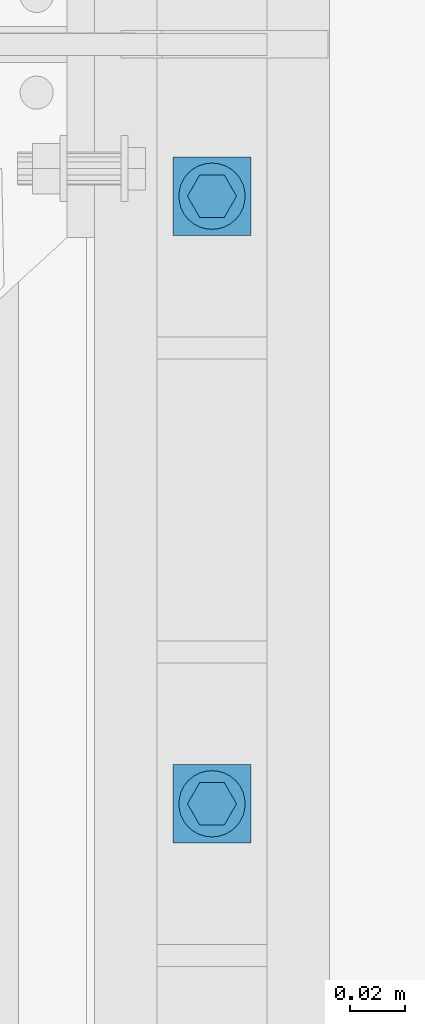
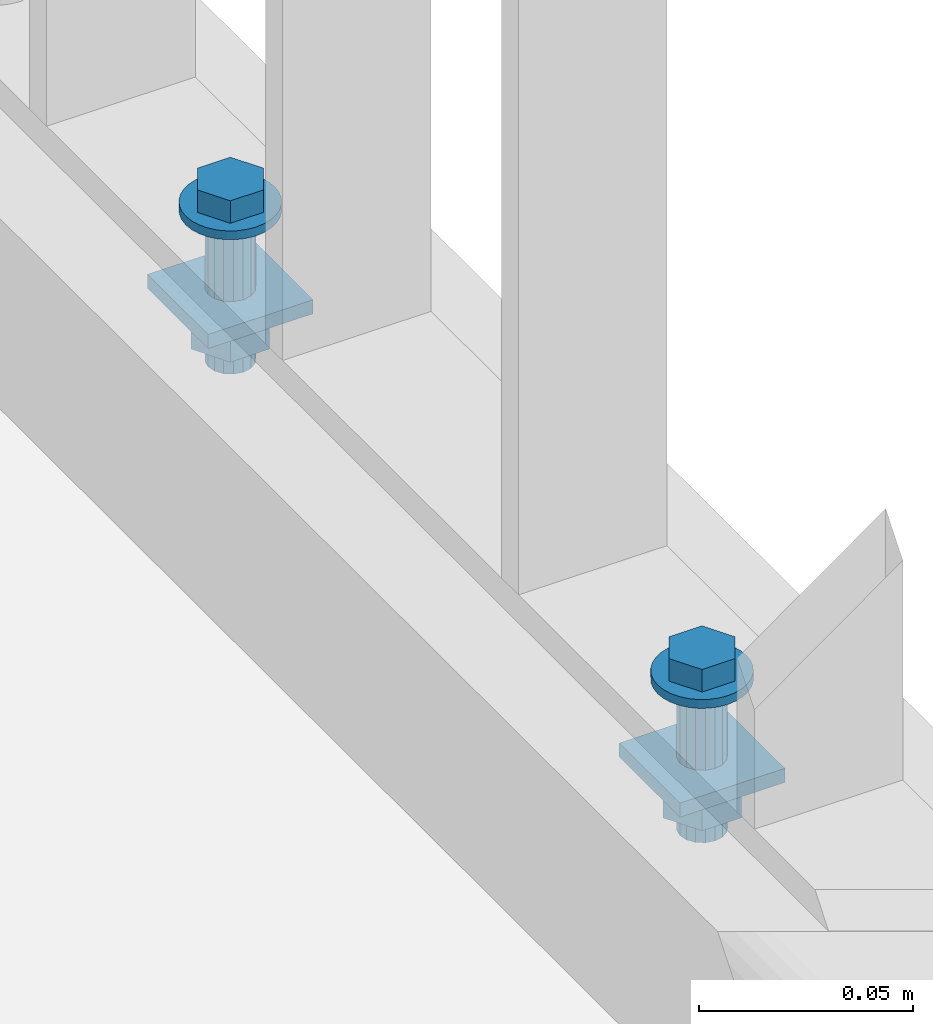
# One storey, part 111 of 145: 2 mechanical fasteners.
"""IFC2X3 building model written with IfcOpenShell, lengths in millimetres."""

import ifcopenshell
import ifcopenshell.guid

model = None  # the IFC model being written
_history = None  # IfcOwnerHistory: only IFC2X3 demands one
_inside = {}  # id of a spatial element -> (the spatial element, [elements in it])
_under = {}  # id of a project, library or spatial element -> (it, [spatial elements below it])
_declared = {}  # id of a project -> (the project, [libraries it declares])
_typed = {}  # id of a type object -> (the type object, [elements of that type])
_made_of = {}  # id of a material, layer set ... -> (it, [elements and type objects made of it])


def new_model(schema):
    """Start an empty IFC model of exactly this schema.

    Asked for "IFC4X3", IfcOpenShell would pick the latest addendum, in which some entities
    have other attributes; the version numbers below select the first issue.
    IFC2X3 requires an IfcOwnerHistory on every rooted entity: one is made here for all.
    """
    global model, _history
    if schema == "IFC4X3":
        model = ifcopenshell.file(schema_version=(4, 3, 0, 0))
    else:
        model = ifcopenshell.file(schema=schema)
    _inside.clear()
    _under.clear()
    _declared.clear()
    _typed.clear()
    _made_of.clear()
    _history = None
    if model.schema == "IFC2X3":
        org = make("IfcOrganization", Name="unknown")
        user = make(
            "IfcPersonAndOrganization",
            ThePerson=make("IfcPerson", FamilyName="unknown"),
            TheOrganization=org,
        )
        app = make(
            "IfcApplication",
            ApplicationDeveloper=org,
            Version="unknown",
            ApplicationFullName="unknown",
            ApplicationIdentifier="unknown",
        )
        _history = make(
            "IfcOwnerHistory",
            OwningUser=user,
            OwningApplication=app,
            ChangeAction="ADDED",
            CreationDate=0,
        )
    return model


def make(cls, **values):
    """One entity of the class cls with the attributes given. An attribute that is None is left unset."""
    return model.create_entity(
        cls, **{name: value for name, value in values.items() if value is not None}
    )


def entity(cls, *values):
    """Any entity or typed value of the class cls, its attributes in the order of the schema. None: left unset."""
    e = model.create_entity(cls)
    for i, value in enumerate(values):
        if value is not None:
            e[i] = value
    return e


def rooted(cls, **values):
    """An entity with a GlobalId (a new one), such as an element, a storey or a relation."""
    return make(cls, GlobalId=ifcopenshell.guid.new(), OwnerHistory=_history, **values)


def si_unit(unit_type, name, prefix=None):
    """IfcSIUnit, for example si_unit("LENGTHUNIT", "METRE", prefix="MILLI")."""
    return make("IfcSIUnit", UnitType=unit_type, Prefix=prefix, Name=name)


def converted_unit(unit_type, name, factor, base, dimensions=None, offset=None):
    """IfcConversionBasedUnit, such as the inch: factor (a typed value) times the base unit."""
    return make(
        "IfcConversionBasedUnit"
        if offset is None
        else "IfcConversionBasedUnitWithOffset",
        ConversionOffset=offset,
        Dimensions=None
        if dimensions is None
        else entity("IfcDimensionalExponents", *dimensions),
        UnitType=unit_type,
        Name=name,
        ConversionFactor=make(
            "IfcMeasureWithUnit", ValueComponent=factor, UnitComponent=base
        ),
    )


def assignment(units):
    """IfcUnitAssignment: the units of a project."""
    return None if units is None else make("IfcUnitAssignment", Units=units)


def point(xyz):
    """IfcCartesianPoint."""
    return None if xyz is None else make("IfcCartesianPoint", Coordinates=xyz)


def direction(xyz):
    """IfcDirection."""
    return None if xyz is None else make("IfcDirection", DirectionRatios=xyz)


def frame(location, z_axis=None, x_axis=None):
    """IfcAxis2Placement3D, a coordinate frame: its origin and axes. An axis left out is left unset."""
    return make(
        "IfcAxis2Placement3D",
        Location=point(location),
        Axis=direction(z_axis),
        RefDirection=direction(x_axis),
    )


def origin_with_axes():
    """The frame at (0, 0, 0) with the z axis (0, 0, 1) and the x axis (1, 0, 0) written out."""
    return frame((0.0, 0.0, 0.0), z_axis=(0.0, 0.0, 1.0), x_axis=(1.0, 0.0, 0.0))


def place(relative_to, where):
    """IfcLocalPlacement: puts the frame where relative to a parent placement (None: the world)."""
    return make(
        "IfcLocalPlacement", PlacementRelTo=relative_to, RelativePlacement=where
    )


def context(
    kind, dimensions, precision=None, world=None, true_north=None, identifier=None
):
    """IfcGeometricRepresentationContext, for example the 3D "Model" context."""
    return make(
        "IfcGeometricRepresentationContext",
        ContextIdentifier=identifier,
        ContextType=kind,
        CoordinateSpaceDimension=dimensions,
        Precision=precision,
        WorldCoordinateSystem=world,
        TrueNorth=true_north,
    )


def project(units=None, contexts=None):
    """IfcProject with its units and contexts."""
    return rooted(
        "IfcProject",
        Name="project",
        RepresentationContexts=contexts,
        UnitsInContext=assignment(units),
    )


def spatial(cls, under=None, at=None, **own):
    """A site, building, storey or space (cls), placed at a placement, below another one or the project."""
    s = rooted(cls, ObjectPlacement=at, **own)
    if under is not None:
        _under.setdefault(under.id(), (under, []))[1].append(s)
    return s


def faces_of(points, faces, orient=None, outer=None):
    """IfcFace entities. A face is a list of loops; a loop is a list of indices into points, from 0.

    orient and outer hold one flag for each loop. By default every Orientation is true, the
    first loop of a face is its IfcFaceOuterBound and the others are IfcFaceBound.
    """
    made = []
    for i, loops in enumerate(faces):
        bounds = []
        for j, loop in enumerate(loops):
            is_outer = j == 0 if outer is None else outer[i][j]
            bounds.append(
                make(
                    "IfcFaceOuterBound" if is_outer else "IfcFaceBound",
                    Bound=make("IfcPolyLoop", Polygon=[points[k] for k in loop]),
                    Orientation=True if orient is None else orient[i][j],
                )
            )
        made.append(make("IfcFace", Bounds=bounds))
    return made


def faceted_brep(points, faces, orient=None, outer=None, voids=None):
    """IfcFacetedBrep: a solid bounded by flat faces; with voids (closed shells), ...WithVoids."""
    shared = [point(p) for p in points]
    hull = make("IfcClosedShell", CfsFaces=faces_of(shared, faces, orient, outer))
    if voids is None:
        return make("IfcFacetedBrep", Outer=hull)
    return make(
        "IfcFacetedBrepWithVoids",
        Outer=hull,
        Voids=[
            make(cls, CfsFaces=faces_of(shared, fs, o, b)) for cls, fs, o, b in voids
        ],
    )


def shape(context_of_items, identifier, shape_type, items):
    """IfcShapeRepresentation: the items that make up one representation, for example the "Body"."""
    return make(
        "IfcShapeRepresentation",
        ContextOfItems=context_of_items,
        RepresentationIdentifier=identifier,
        RepresentationType=shape_type,
        Items=items,
    )


def made_of(thing, what):
    """Note that an element or type object is made of a material, layer set ...; save() writes the relation."""
    if what is not None:
        _made_of.setdefault(what.id(), (what, []))[1].append(thing)
    return thing


def element(
    cls,
    number,
    at=None,
    inside=None,
    cuts=None,
    type_object=None,
    material=None,
    context=None,
    identifier="Body",
    shape_type=None,
    held_by="IfcProductDefinitionShape",
    body=None,
    shapes=None,
    **own,
):
    """One element of the class cls, such as IfcWall. Its Tag is "e" and its number.

    at: its placement. inside: the storey or other place that contains it. cuts: it is an
    opening in that element (IfcRelVoidsElement). A single representation is given by context,
    identifier, shape_type and body (its items); several are given by shapes. held_by: the class
    of the entity that holds the representations. save() writes the other relations.
    """
    e = rooted(cls, Tag="e%d" % number, ObjectPlacement=at, **own)
    if body is not None:
        shapes = [shape(context, identifier, shape_type, body)]
    if shapes is not None:
        e.Representation = make(held_by, Representations=shapes)
    if inside is not None:
        _inside.setdefault(inside.id(), (inside, []))[1].append(e)
    if cuts is not None:
        rooted(
            "IfcRelVoidsElement", RelatingBuildingElement=cuts, RelatedOpeningElement=e
        )
    if type_object is not None:
        _typed.setdefault(type_object.id(), (type_object, []))[1].append(e)
    return made_of(e, material)


def aggregate(whole, parts):
    """IfcRelAggregates: a whole, such as a stair, and the parts it consists of."""
    return rooted("IfcRelAggregates", RelatingObject=whole, RelatedObjects=parts)


def save(model, path):
    """Write the relations noted so far, then the file.

    IfcRelAggregates (storeys below a building ...), IfcRelContainedInSpatialStructure (elements
    in a storey), IfcRelDefinesByType, IfcRelAssociatesMaterial and IfcRelDeclares: one each for
    every whole, place, type object, material and project.
    """
    for whole, parts in _under.values():
        aggregate(whole, parts)
    for where, things in _inside.values():
        rooted(
            "IfcRelContainedInSpatialStructure",
            RelatedElements=things,
            RelatingStructure=where,
        )
    for kind, things in _typed.values():
        rooted("IfcRelDefinesByType", RelatedObjects=things, RelatingType=kind)
    for what, things in _made_of.values():
        rooted("IfcRelAssociatesMaterial", RelatedObjects=things, RelatingMaterial=what)
    for by, libraries in _declared.values():
        rooted("IfcRelDeclares", RelatingContext=by, RelatedDefinitions=libraries)
    model.write(path)


model = new_model("IFC2X3")

# Units and contexts
model_context = context("Model", 3, precision=1e-09, world=origin_with_axes())
ifc_project = project(units=[si_unit("LENGTHUNIT", "METRE", prefix="MILLI"), si_unit("AREAUNIT", "SQUARE_METRE"), si_unit("VOLUMEUNIT", "CUBIC_METRE"), converted_unit("PLANEANGLEUNIT", "DEGREE", entity("IfcPlaneAngleMeasure", 0.01745329), si_unit("PLANEANGLEUNIT", "RADIAN"), dimensions=[0, 0, 0, 0, 0, 0, 0])], contexts=[model_context])

# Site, building, storey
site_placement = place(None, origin_with_axes())
site = spatial("IfcSite", under=ifc_project, at=site_placement, Name="BZ1 Grund- und Mittelschule 85716 Unterschlei?heim", CompositionType="ELEMENT")
building_placement = place(site_placement, origin_with_axes())
building = spatial("IfcBuilding", under=site, at=building_placement, Name="Struktur 1", CompositionType="ELEMENT")
storey_placement = place(building_placement, origin_with_axes())
storey = spatial("IfcBuildingStorey", under=building, at=storey_placement, Name="Default Storey", CompositionType="ELEMENT", Elevation=0.0)

# Mechanical fasteners
mechanical_fastener_1_placement = place(None, origin_with_axes())
element("IfcMechanicalFastener", 1, at=mechanical_fastener_1_placement, inside=storey, ObjectType="-", NominalDiameter=12.0, NominalLength=45.0, context=model_context, shape_type="Brep", body=[
    faceted_brep([(21613.34472732, -1738.002, 1621.636364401), (21613.34472732, -1738.002, 1624.136364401), (21615.685811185, -1738.232576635, 1624.136364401), (21615.685811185, -1738.232576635, 1621.636364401), (21617.936928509, -1738.91544561, 1624.136364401), (21617.936928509, -1738.91544561, 1621.636364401), (21620.011570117, -1740.024364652, 1624.136364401), (21620.011570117, -1740.024364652, 1621.636364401), (21621.830008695, -1741.516718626, 1624.136364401), (21621.830008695, -1741.516718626, 1621.636364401), (21623.322362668, -1743.335157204, 1624.136364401), (21623.322362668, -1743.335157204, 1621.636364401), (21624.43128171, -1745.409798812, 1624.136364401), (21624.43128171, -1745.409798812, 1621.636364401), (21625.114150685, -1747.660916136, 1624.136364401), (21625.114150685, -1747.660916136, 1621.636364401), (21625.34472732, -1750.002, 1624.136364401), (21625.34472732, -1750.002, 1621.636364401), (21625.114150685, -1752.343083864, 1624.136364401), (21625.114150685, -1752.343083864, 1621.636364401), (21624.43128171, -1754.594201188, 1624.136364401), (21624.43128171, -1754.594201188, 1621.636364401), (21623.322362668, -1756.668842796, 1624.136364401), (21623.322362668, -1756.668842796, 1621.636364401), (21621.830008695, -1758.487281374, 1624.136364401), (21621.830008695, -1758.487281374, 1621.636364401), (21620.011570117, -1759.979635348, 1624.136364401), (21620.011570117, -1759.979635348, 1621.636364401), (21617.936928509, -1761.08855439, 1624.136364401), (21617.936928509, -1761.08855439, 1621.636364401), (21615.685811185, -1761.771423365, 1624.136364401), (21615.685811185, -1761.771423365, 1621.636364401), (21613.34472732, -1762.002, 1624.136364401), (21613.34472732, -1762.002, 1621.636364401), (21611.003643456, -1761.771423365, 1624.136364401), (21611.003643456, -1761.771423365, 1621.636364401), (21608.752526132, -1761.08855439, 1624.136364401), (21608.752526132, -1761.08855439, 1621.636364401), (21606.677884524, -1759.979635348, 1624.136364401), (21606.677884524, -1759.979635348, 1621.636364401), (21604.859445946, -1758.487281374, 1624.136364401), (21604.859445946, -1758.487281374, 1621.636364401), (21603.367091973, -1756.668842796, 1624.136364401), (21603.367091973, -1756.668842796, 1621.636364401), (21602.25817293, -1754.594201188, 1624.136364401), (21602.25817293, -1754.594201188, 1621.636364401), (21601.575303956, -1752.343083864, 1624.136364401), (21601.575303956, -1752.343083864, 1621.636364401), (21601.34472732, -1750.002, 1624.136364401), (21601.34472732, -1750.002, 1621.636364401), (21601.575303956, -1747.660916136, 1624.136364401), (21601.575303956, -1747.660916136, 1621.636364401), (21602.25817293, -1745.409798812, 1624.136364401), (21602.25817293, -1745.409798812, 1621.636364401), (21603.367091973, -1743.335157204, 1624.136364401), (21603.367091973, -1743.335157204, 1621.636364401), (21604.859445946, -1741.516718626, 1624.136364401), (21604.859445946, -1741.516718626, 1621.636364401), (21606.677884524, -1740.024364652, 1624.136364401), (21606.677884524, -1740.024364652, 1621.636364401), (21608.752526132, -1738.91544561, 1624.136364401), (21608.752526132, -1738.91544561, 1621.636364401), (21611.003643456, -1738.232576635, 1624.136364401), (21611.003643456, -1738.232576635, 1621.636364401)], [[[0, 1, 2, 3]], [[3, 2, 4, 5]], [[5, 4, 6, 7]], [[7, 6, 8, 9]], [[9, 8, 10, 11]], [[11, 10, 12, 13]], [[13, 12, 14, 15]], [[15, 14, 16, 17]], [[17, 16, 18, 19]], [[19, 18, 20, 21]], [[21, 20, 22, 23]], [[23, 22, 24, 25]], [[25, 24, 26, 27]], [[27, 26, 28, 29]], [[29, 28, 30, 31]], [[31, 30, 32, 33]], [[33, 32, 34, 35]], [[35, 34, 36, 37]], [[37, 36, 38, 39]], [[39, 38, 40, 41]], [[41, 40, 42, 43]], [[43, 42, 44, 45]], [[45, 44, 46, 47]], [[47, 46, 48, 49]], [[49, 48, 50, 51]], [[51, 50, 52, 53]], [[53, 52, 54, 55]], [[55, 54, 56, 57]], [[57, 56, 58, 59]], [[59, 58, 60, 61]], [[61, 60, 62, 63]], [[63, 62, 1, 0]], [[2, 1, 62, 60, 58, 56, 54, 52, 50, 48, 46, 44, 42, 40, 38, 36, 34, 32, 30, 28, 26, 24, 22, 20, 18, 16, 14, 12, 10, 8, 6, 4]], [[63, 0, 3, 5, 7, 9, 11, 13, 15, 17, 19, 21, 23, 25, 27, 29, 31, 33, 35, 37, 39, 41, 43, 45, 47, 49, 51, 53, 55, 57, 59, 61]]]),
    faceted_brep([(21617.78722732, -1757.696635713, 1630.536364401), (21617.78722732, -1757.696635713, 1624.136364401), (21622.22972732, -1750.002, 1624.136364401), (21622.22972732, -1750.002, 1630.536364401), (21617.78722732, -1742.307364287, 1624.136364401), (21617.78722732, -1742.307364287, 1630.536364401), (21608.90222732, -1742.307364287, 1624.136364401), (21608.90222732, -1742.307364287, 1630.536364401), (21604.45972732, -1750.002, 1624.136364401), (21604.45972732, -1750.002, 1630.536364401), (21608.90222732, -1757.696635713, 1624.136364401), (21608.90222732, -1757.696635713, 1630.536364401)], [[[0, 1, 2, 3]], [[3, 2, 4, 5]], [[5, 4, 6, 7]], [[7, 6, 8, 9]], [[9, 8, 10, 11]], [[11, 10, 1, 0]], [[3, 5, 7, 9, 11, 0]], [[2, 1, 10, 8, 6, 4]]]),
    faceted_brep([(21613.34472732, -1744.002, 1599.792349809), (21613.34472732, -1744.002, 1621.636364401), (21615.640827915, -1744.458722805, 1621.636364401), (21615.640827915, -1744.458722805, 1599.792349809), (21617.587368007, -1745.759359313, 1621.636364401), (21617.587368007, -1745.759359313, 1599.792349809), (21618.888004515, -1747.705899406, 1621.636364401), (21618.888004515, -1747.705899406, 1599.792349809), (21619.34472732, -1750.002, 1621.636364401), (21619.34472732, -1750.002, 1599.792349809), (21618.888004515, -1752.298100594, 1621.636364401), (21618.888004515, -1752.298100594, 1599.792349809), (21617.587368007, -1754.244640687, 1621.636364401), (21617.587368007, -1754.244640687, 1599.792349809), (21615.640827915, -1755.545277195, 1621.636364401), (21615.640827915, -1755.545277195, 1599.792349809), (21613.34472732, -1756.002, 1621.636364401), (21613.34472732, -1756.002, 1599.792349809), (21611.048626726, -1755.545277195, 1621.636364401), (21611.048626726, -1755.545277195, 1599.792349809), (21609.102086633, -1754.244640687, 1621.636364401), (21609.102086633, -1754.244640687, 1599.792349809), (21607.801450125, -1752.298100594, 1621.636364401), (21607.801450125, -1752.298100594, 1599.792349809), (21607.34472732, -1750.002, 1621.636364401), (21607.34472732, -1750.002, 1599.792349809), (21607.801450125, -1747.705899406, 1621.636364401), (21607.801450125, -1747.705899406, 1599.792349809), (21609.102086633, -1745.759359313, 1621.636364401), (21609.102086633, -1745.759359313, 1599.792349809), (21611.048626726, -1744.458722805, 1621.636364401), (21611.048626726, -1744.458722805, 1599.792349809)], [[[0, 1, 2, 3]], [[3, 2, 4, 5]], [[5, 4, 6, 7]], [[7, 6, 8, 9]], [[9, 8, 10, 11]], [[11, 10, 12, 13]], [[13, 12, 14, 15]], [[15, 14, 16, 17]], [[17, 16, 18, 19]], [[19, 18, 20, 21]], [[21, 20, 22, 23]], [[23, 22, 24, 25]], [[25, 24, 26, 27]], [[27, 26, 28, 29]], [[29, 28, 30, 31]], [[31, 30, 1, 0]], [[2, 1, 30, 28, 26, 24, 22, 20, 18, 16, 14, 12, 10, 8, 6, 4]], [[31, 0, 3, 5, 7, 9, 11, 13, 15, 17, 19, 21, 23, 25, 27, 29]]]),
    faceted_brep([(21627.486862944, -1764.144135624, 1599.792349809), (21627.486862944, -1764.144135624, 1595.792349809), (21627.486862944, -1735.859864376, 1595.792349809), (21627.486862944, -1735.859864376, 1599.792349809), (21599.202591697, -1735.859864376, 1595.792349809), (21599.202591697, -1735.859864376, 1599.792349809), (21599.202591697, -1764.144135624, 1595.792349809), (21599.202591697, -1764.144135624, 1599.792349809)], [[[0, 1, 2, 3]], [[3, 2, 4, 5]], [[5, 4, 6, 7]], [[7, 6, 1, 0]], [[3, 5, 7, 0]], [[2, 1, 6, 4]]]),
    faceted_brep([(21618.61972732, -1759.13856801, 1595.792349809), (21618.61972732, -1759.13856801, 1585.792349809), (21623.89472732, -1750.002, 1585.792349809), (21623.89472732, -1750.002, 1595.792349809), (21618.61972732, -1740.86543199, 1585.792349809), (21618.61972732, -1740.86543199, 1595.792349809), (21608.06972732, -1740.86543199, 1585.792349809), (21608.06972732, -1740.86543199, 1595.792349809), (21602.79472732, -1750.002, 1585.792349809), (21602.79472732, -1750.002, 1595.792349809), (21608.06972732, -1759.13856801, 1585.792349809), (21608.06972732, -1759.13856801, 1595.792349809)], [[[0, 1, 2, 3]], [[3, 2, 4, 5]], [[5, 4, 6, 7]], [[7, 6, 8, 9]], [[9, 8, 10, 11]], [[11, 10, 1, 0]], [[3, 5, 7, 9, 11, 0]], [[2, 1, 10, 8, 6, 4]]]),
    faceted_brep([(21613.34472732, -1744.002, 1579.136364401), (21613.34472732, -1744.002, 1585.792349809), (21615.640827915, -1744.458722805, 1585.792349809), (21615.640827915, -1744.458722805, 1579.136364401), (21617.587368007, -1745.759359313, 1585.792349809), (21617.587368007, -1745.759359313, 1579.136364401), (21618.888004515, -1747.705899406, 1585.792349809), (21618.888004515, -1747.705899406, 1579.136364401), (21619.34472732, -1750.002, 1585.792349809), (21619.34472732, -1750.002, 1579.136364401), (21618.888004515, -1752.298100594, 1585.792349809), (21618.888004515, -1752.298100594, 1579.136364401), (21617.587368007, -1754.244640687, 1585.792349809), (21617.587368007, -1754.244640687, 1579.136364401), (21615.640827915, -1755.545277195, 1585.792349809), (21615.640827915, -1755.545277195, 1579.136364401), (21613.34472732, -1756.002, 1585.792349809), (21613.34472732, -1756.002, 1579.136364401), (21611.048626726, -1755.545277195, 1585.792349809), (21611.048626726, -1755.545277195, 1579.136364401), (21609.102086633, -1754.244640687, 1585.792349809), (21609.102086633, -1754.244640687, 1579.136364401), (21607.801450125, -1752.298100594, 1585.792349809), (21607.801450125, -1752.298100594, 1579.136364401), (21607.34472732, -1750.002, 1585.792349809), (21607.34472732, -1750.002, 1579.136364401), (21607.801450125, -1747.705899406, 1585.792349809), (21607.801450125, -1747.705899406, 1579.136364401), (21609.102086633, -1745.759359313, 1585.792349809), (21609.102086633, -1745.759359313, 1579.136364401), (21611.048626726, -1744.458722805, 1585.792349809), (21611.048626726, -1744.458722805, 1579.136364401)], [[[0, 1, 2, 3]], [[3, 2, 4, 5]], [[5, 4, 6, 7]], [[7, 6, 8, 9]], [[9, 8, 10, 11]], [[11, 10, 12, 13]], [[13, 12, 14, 15]], [[15, 14, 16, 17]], [[17, 16, 18, 19]], [[19, 18, 20, 21]], [[21, 20, 22, 23]], [[23, 22, 24, 25]], [[25, 24, 26, 27]], [[27, 26, 28, 29]], [[29, 28, 30, 31]], [[31, 30, 1, 0]], [[2, 1, 30, 28, 26, 24, 22, 20, 18, 16, 14, 12, 10, 8, 6, 4]], [[31, 0, 3, 5, 7, 9, 11, 13, 15, 17, 19, 21, 23, 25, 27, 29]]]),
])
mechanical_fastener_2_placement = place(None, origin_with_axes())
element("IfcMechanicalFastener", 2, at=mechanical_fastener_2_placement, inside=storey, ObjectType="-", NominalDiameter=12.0, NominalLength=45.0, context=model_context, shape_type="Brep", body=[
    faceted_brep([(21613.34472732, -1958.002, 1621.636364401), (21613.34472732, -1958.002, 1624.136364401), (21615.685811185, -1958.232576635, 1624.136364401), (21615.685811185, -1958.232576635, 1621.636364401), (21617.936928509, -1958.91544561, 1624.136364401), (21617.936928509, -1958.91544561, 1621.636364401), (21620.011570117, -1960.024364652, 1624.136364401), (21620.011570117, -1960.024364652, 1621.636364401), (21621.830008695, -1961.516718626, 1624.136364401), (21621.830008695, -1961.516718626, 1621.636364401), (21623.322362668, -1963.335157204, 1624.136364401), (21623.322362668, -1963.335157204, 1621.636364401), (21624.43128171, -1965.409798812, 1624.136364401), (21624.43128171, -1965.409798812, 1621.636364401), (21625.114150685, -1967.660916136, 1624.136364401), (21625.114150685, -1967.660916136, 1621.636364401), (21625.34472732, -1970.002, 1624.136364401), (21625.34472732, -1970.002, 1621.636364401), (21625.114150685, -1972.343083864, 1624.136364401), (21625.114150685, -1972.343083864, 1621.636364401), (21624.43128171, -1974.594201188, 1624.136364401), (21624.43128171, -1974.594201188, 1621.636364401), (21623.322362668, -1976.668842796, 1624.136364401), (21623.322362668, -1976.668842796, 1621.636364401), (21621.830008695, -1978.487281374, 1624.136364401), (21621.830008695, -1978.487281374, 1621.636364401), (21620.011570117, -1979.979635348, 1624.136364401), (21620.011570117, -1979.979635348, 1621.636364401), (21617.936928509, -1981.08855439, 1624.136364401), (21617.936928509, -1981.08855439, 1621.636364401), (21615.685811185, -1981.771423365, 1624.136364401), (21615.685811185, -1981.771423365, 1621.636364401), (21613.34472732, -1982.002, 1624.136364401), (21613.34472732, -1982.002, 1621.636364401), (21611.003643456, -1981.771423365, 1624.136364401), (21611.003643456, -1981.771423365, 1621.636364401), (21608.752526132, -1981.08855439, 1624.136364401), (21608.752526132, -1981.08855439, 1621.636364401), (21606.677884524, -1979.979635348, 1624.136364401), (21606.677884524, -1979.979635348, 1621.636364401), (21604.859445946, -1978.487281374, 1624.136364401), (21604.859445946, -1978.487281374, 1621.636364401), (21603.367091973, -1976.668842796, 1624.136364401), (21603.367091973, -1976.668842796, 1621.636364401), (21602.25817293, -1974.594201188, 1624.136364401), (21602.25817293, -1974.594201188, 1621.636364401), (21601.575303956, -1972.343083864, 1624.136364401), (21601.575303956, -1972.343083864, 1621.636364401), (21601.34472732, -1970.002, 1624.136364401), (21601.34472732, -1970.002, 1621.636364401), (21601.575303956, -1967.660916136, 1624.136364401), (21601.575303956, -1967.660916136, 1621.636364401), (21602.25817293, -1965.409798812, 1624.136364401), (21602.25817293, -1965.409798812, 1621.636364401), (21603.367091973, -1963.335157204, 1624.136364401), (21603.367091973, -1963.335157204, 1621.636364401), (21604.859445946, -1961.516718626, 1624.136364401), (21604.859445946, -1961.516718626, 1621.636364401), (21606.677884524, -1960.024364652, 1624.136364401), (21606.677884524, -1960.024364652, 1621.636364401), (21608.752526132, -1958.91544561, 1624.136364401), (21608.752526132, -1958.91544561, 1621.636364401), (21611.003643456, -1958.232576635, 1624.136364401), (21611.003643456, -1958.232576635, 1621.636364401)], [[[0, 1, 2, 3]], [[3, 2, 4, 5]], [[5, 4, 6, 7]], [[7, 6, 8, 9]], [[9, 8, 10, 11]], [[11, 10, 12, 13]], [[13, 12, 14, 15]], [[15, 14, 16, 17]], [[17, 16, 18, 19]], [[19, 18, 20, 21]], [[21, 20, 22, 23]], [[23, 22, 24, 25]], [[25, 24, 26, 27]], [[27, 26, 28, 29]], [[29, 28, 30, 31]], [[31, 30, 32, 33]], [[33, 32, 34, 35]], [[35, 34, 36, 37]], [[37, 36, 38, 39]], [[39, 38, 40, 41]], [[41, 40, 42, 43]], [[43, 42, 44, 45]], [[45, 44, 46, 47]], [[47, 46, 48, 49]], [[49, 48, 50, 51]], [[51, 50, 52, 53]], [[53, 52, 54, 55]], [[55, 54, 56, 57]], [[57, 56, 58, 59]], [[59, 58, 60, 61]], [[61, 60, 62, 63]], [[63, 62, 1, 0]], [[2, 1, 62, 60, 58, 56, 54, 52, 50, 48, 46, 44, 42, 40, 38, 36, 34, 32, 30, 28, 26, 24, 22, 20, 18, 16, 14, 12, 10, 8, 6, 4]], [[63, 0, 3, 5, 7, 9, 11, 13, 15, 17, 19, 21, 23, 25, 27, 29, 31, 33, 35, 37, 39, 41, 43, 45, 47, 49, 51, 53, 55, 57, 59, 61]]]),
    faceted_brep([(21617.78722732, -1977.696635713, 1630.536364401), (21617.78722732, -1977.696635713, 1624.136364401), (21622.22972732, -1970.002, 1624.136364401), (21622.22972732, -1970.002, 1630.536364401), (21617.78722732, -1962.307364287, 1624.136364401), (21617.78722732, -1962.307364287, 1630.536364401), (21608.90222732, -1962.307364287, 1624.136364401), (21608.90222732, -1962.307364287, 1630.536364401), (21604.45972732, -1970.002, 1624.136364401), (21604.45972732, -1970.002, 1630.536364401), (21608.90222732, -1977.696635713, 1624.136364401), (21608.90222732, -1977.696635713, 1630.536364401)], [[[0, 1, 2, 3]], [[3, 2, 4, 5]], [[5, 4, 6, 7]], [[7, 6, 8, 9]], [[9, 8, 10, 11]], [[11, 10, 1, 0]], [[3, 5, 7, 9, 11, 0]], [[2, 1, 10, 8, 6, 4]]]),
    faceted_brep([(21613.34472732, -1964.002, 1599.792349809), (21613.34472732, -1964.002, 1621.636364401), (21615.640827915, -1964.458722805, 1621.636364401), (21615.640827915, -1964.458722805, 1599.792349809), (21617.587368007, -1965.759359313, 1621.636364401), (21617.587368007, -1965.759359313, 1599.792349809), (21618.888004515, -1967.705899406, 1621.636364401), (21618.888004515, -1967.705899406, 1599.792349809), (21619.34472732, -1970.002, 1621.636364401), (21619.34472732, -1970.002, 1599.792349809), (21618.888004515, -1972.298100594, 1621.636364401), (21618.888004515, -1972.298100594, 1599.792349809), (21617.587368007, -1974.244640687, 1621.636364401), (21617.587368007, -1974.244640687, 1599.792349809), (21615.640827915, -1975.545277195, 1621.636364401), (21615.640827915, -1975.545277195, 1599.792349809), (21613.34472732, -1976.002, 1621.636364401), (21613.34472732, -1976.002, 1599.792349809), (21611.048626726, -1975.545277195, 1621.636364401), (21611.048626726, -1975.545277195, 1599.792349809), (21609.102086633, -1974.244640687, 1621.636364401), (21609.102086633, -1974.244640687, 1599.792349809), (21607.801450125, -1972.298100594, 1621.636364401), (21607.801450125, -1972.298100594, 1599.792349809), (21607.34472732, -1970.002, 1621.636364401), (21607.34472732, -1970.002, 1599.792349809), (21607.801450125, -1967.705899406, 1621.636364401), (21607.801450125, -1967.705899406, 1599.792349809), (21609.102086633, -1965.759359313, 1621.636364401), (21609.102086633, -1965.759359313, 1599.792349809), (21611.048626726, -1964.458722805, 1621.636364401), (21611.048626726, -1964.458722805, 1599.792349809)], [[[0, 1, 2, 3]], [[3, 2, 4, 5]], [[5, 4, 6, 7]], [[7, 6, 8, 9]], [[9, 8, 10, 11]], [[11, 10, 12, 13]], [[13, 12, 14, 15]], [[15, 14, 16, 17]], [[17, 16, 18, 19]], [[19, 18, 20, 21]], [[21, 20, 22, 23]], [[23, 22, 24, 25]], [[25, 24, 26, 27]], [[27, 26, 28, 29]], [[29, 28, 30, 31]], [[31, 30, 1, 0]], [[2, 1, 30, 28, 26, 24, 22, 20, 18, 16, 14, 12, 10, 8, 6, 4]], [[31, 0, 3, 5, 7, 9, 11, 13, 15, 17, 19, 21, 23, 25, 27, 29]]]),
    faceted_brep([(21627.486862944, -1984.144135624, 1599.792349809), (21627.486862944, -1984.144135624, 1595.792349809), (21627.486862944, -1955.859864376, 1595.792349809), (21627.486862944, -1955.859864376, 1599.792349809), (21599.202591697, -1955.859864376, 1595.792349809), (21599.202591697, -1955.859864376, 1599.792349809), (21599.202591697, -1984.144135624, 1595.792349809), (21599.202591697, -1984.144135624, 1599.792349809)], [[[0, 1, 2, 3]], [[3, 2, 4, 5]], [[5, 4, 6, 7]], [[7, 6, 1, 0]], [[3, 5, 7, 0]], [[2, 1, 6, 4]]]),
    faceted_brep([(21618.61972732, -1979.13856801, 1595.792349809), (21618.61972732, -1979.13856801, 1585.792349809), (21623.89472732, -1970.002, 1585.792349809), (21623.89472732, -1970.002, 1595.792349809), (21618.61972732, -1960.86543199, 1585.792349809), (21618.61972732, -1960.86543199, 1595.792349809), (21608.06972732, -1960.86543199, 1585.792349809), (21608.06972732, -1960.86543199, 1595.792349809), (21602.79472732, -1970.002, 1585.792349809), (21602.79472732, -1970.002, 1595.792349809), (21608.06972732, -1979.13856801, 1585.792349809), (21608.06972732, -1979.13856801, 1595.792349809)], [[[0, 1, 2, 3]], [[3, 2, 4, 5]], [[5, 4, 6, 7]], [[7, 6, 8, 9]], [[9, 8, 10, 11]], [[11, 10, 1, 0]], [[3, 5, 7, 9, 11, 0]], [[2, 1, 10, 8, 6, 4]]]),
    faceted_brep([(21613.34472732, -1964.002, 1579.136364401), (21613.34472732, -1964.002, 1585.792349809), (21615.640827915, -1964.458722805, 1585.792349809), (21615.640827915, -1964.458722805, 1579.136364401), (21617.587368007, -1965.759359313, 1585.792349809), (21617.587368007, -1965.759359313, 1579.136364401), (21618.888004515, -1967.705899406, 1585.792349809), (21618.888004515, -1967.705899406, 1579.136364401), (21619.34472732, -1970.002, 1585.792349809), (21619.34472732, -1970.002, 1579.136364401), (21618.888004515, -1972.298100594, 1585.792349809), (21618.888004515, -1972.298100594, 1579.136364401), (21617.587368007, -1974.244640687, 1585.792349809), (21617.587368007, -1974.244640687, 1579.136364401), (21615.640827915, -1975.545277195, 1585.792349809), (21615.640827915, -1975.545277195, 1579.136364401), (21613.34472732, -1976.002, 1585.792349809), (21613.34472732, -1976.002, 1579.136364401), (21611.048626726, -1975.545277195, 1585.792349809), (21611.048626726, -1975.545277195, 1579.136364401), (21609.102086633, -1974.244640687, 1585.792349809), (21609.102086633, -1974.244640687, 1579.136364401), (21607.801450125, -1972.298100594, 1585.792349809), (21607.801450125, -1972.298100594, 1579.136364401), (21607.34472732, -1970.002, 1585.792349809), (21607.34472732, -1970.002, 1579.136364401), (21607.801450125, -1967.705899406, 1585.792349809), (21607.801450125, -1967.705899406, 1579.136364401), (21609.102086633, -1965.759359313, 1585.792349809), (21609.102086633, -1965.759359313, 1579.136364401), (21611.048626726, -1964.458722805, 1585.792349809), (21611.048626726, -1964.458722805, 1579.136364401)], [[[0, 1, 2, 3]], [[3, 2, 4, 5]], [[5, 4, 6, 7]], [[7, 6, 8, 9]], [[9, 8, 10, 11]], [[11, 10, 12, 13]], [[13, 12, 14, 15]], [[15, 14, 16, 17]], [[17, 16, 18, 19]], [[19, 18, 20, 21]], [[21, 20, 22, 23]], [[23, 22, 24, 25]], [[25, 24, 26, 27]], [[27, 26, 28, 29]], [[29, 28, 30, 31]], [[31, 30, 1, 0]], [[2, 1, 30, 28, 26, 24, 22, 20, 18, 16, 14, 12, 10, 8, 6, 4]], [[31, 0, 3, 5, 7, 9, 11, 13, 15, 17, 19, 21, 23, 25, 27, 29]]]),
])

save(model, "model.ifc")
